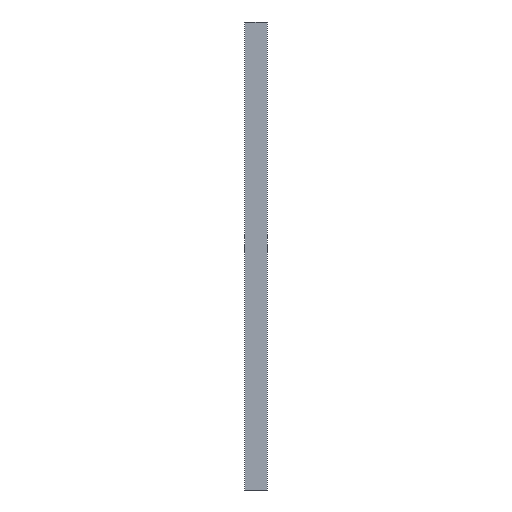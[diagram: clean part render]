
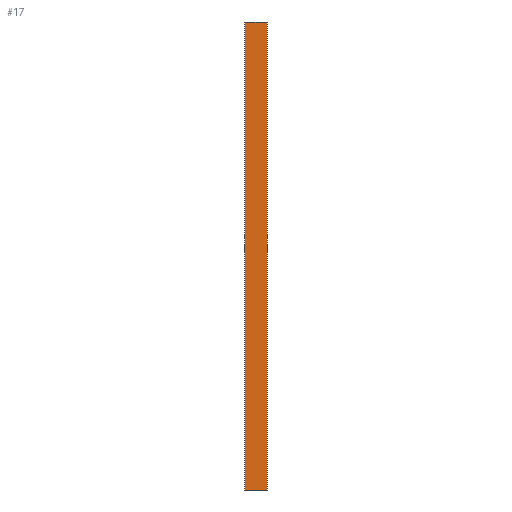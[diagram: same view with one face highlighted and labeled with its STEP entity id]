
A CAD part, front view. The second image highlights one B-rep face of the part: STEP entity #17.
In plain terms, the highlighted planar face has unit normal (0, -1, 0).
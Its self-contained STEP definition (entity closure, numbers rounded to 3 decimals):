
#17 = ADVANCED_FACE('',(#18),#32,.F.);
#18 = FACE_BOUND('',#19,.F.);
#19 = EDGE_LOOP('',(#20,#55,#83,#111));
#20 = ORIENTED_EDGE('',*,*,#21,.T.);
#21 = EDGE_CURVE('',#22,#24,#26,.T.);
#22 = VERTEX_POINT('',#23);
#23 = CARTESIAN_POINT('',(1745.,1745.,25.));
#24 = VERTEX_POINT('',#25);
#25 = CARTESIAN_POINT('',(1745.,1745.,3300.));
#26 = SURFACE_CURVE('',#27,(#31,#43),.PCURVE_S1.);
#27 = LINE('',#28,#29);
#28 = CARTESIAN_POINT('',(1745.,1745.,25.));
#29 = VECTOR('',#30,1.);
#30 = DIRECTION('',(0.,0.,1.));
#31 = PCURVE('',#32,#37);
#32 = PLANE('',#33);
#33 = AXIS2_PLACEMENT_3D('',#34,#35,#36);
#34 = CARTESIAN_POINT('',(1745.,1745.,25.));
#35 = DIRECTION('',(0.,1.,0.));
#36 = DIRECTION('',(1.,0.,0.));
#37 = DEFINITIONAL_REPRESENTATION('',(#38),#42);
#38 = LINE('',#39,#40);
#39 = CARTESIAN_POINT('',(0.,0.));
#40 = VECTOR('',#41,1.);
#41 = DIRECTION('',(0.,-1.));
#42 = ( GEOMETRIC_REPRESENTATION_CONTEXT(2) 
PARAMETRIC_REPRESENTATION_CONTEXT() REPRESENTATION_CONTEXT('2D SPACE',''
  ) );
#43 = PCURVE('',#44,#49);
#44 = PLANE('',#45);
#45 = AXIS2_PLACEMENT_3D('',#46,#47,#48);
#46 = CARTESIAN_POINT('',(1745.,1756.6,25.));
#47 = DIRECTION('',(1.,0.,-0.));
#48 = DIRECTION('',(0.,-1.,0.));
#49 = DEFINITIONAL_REPRESENTATION('',(#50),#54);
#50 = LINE('',#51,#52);
#51 = CARTESIAN_POINT('',(11.6,0.));
#52 = VECTOR('',#53,1.);
#53 = DIRECTION('',(0.,-1.));
#54 = ( GEOMETRIC_REPRESENTATION_CONTEXT(2) 
PARAMETRIC_REPRESENTATION_CONTEXT() REPRESENTATION_CONTEXT('2D SPACE',''
  ) );
#55 = ORIENTED_EDGE('',*,*,#56,.T.);
#56 = EDGE_CURVE('',#24,#57,#59,.T.);
#57 = VERTEX_POINT('',#58);
#58 = CARTESIAN_POINT('',(1899.,1745.,3300.));
#59 = SURFACE_CURVE('',#60,(#64,#71),.PCURVE_S1.);
#60 = LINE('',#61,#62);
#61 = CARTESIAN_POINT('',(1745.,1745.,3300.));
#62 = VECTOR('',#63,1.);
#63 = DIRECTION('',(1.,0.,0.));
#64 = PCURVE('',#32,#65);
#65 = DEFINITIONAL_REPRESENTATION('',(#66),#70);
#66 = LINE('',#67,#68);
#67 = CARTESIAN_POINT('',(0.,-3275.));
#68 = VECTOR('',#69,1.);
#69 = DIRECTION('',(1.,0.));
#70 = ( GEOMETRIC_REPRESENTATION_CONTEXT(2) 
PARAMETRIC_REPRESENTATION_CONTEXT() REPRESENTATION_CONTEXT('2D SPACE',''
  ) );
#71 = PCURVE('',#72,#77);
#72 = PLANE('',#73);
#73 = AXIS2_PLACEMENT_3D('',#74,#75,#76);
#74 = CARTESIAN_POINT('',(1822.,1826.,3300.));
#75 = DIRECTION('',(0.,0.,1.));
#76 = DIRECTION('',(1.,0.,-0.));
#77 = DEFINITIONAL_REPRESENTATION('',(#78),#82);
#78 = LINE('',#79,#80);
#79 = CARTESIAN_POINT('',(-77.,-81.));
#80 = VECTOR('',#81,1.);
#81 = DIRECTION('',(1.,0.));
#82 = ( GEOMETRIC_REPRESENTATION_CONTEXT(2) 
PARAMETRIC_REPRESENTATION_CONTEXT() REPRESENTATION_CONTEXT('2D SPACE',''
  ) );
#83 = ORIENTED_EDGE('',*,*,#84,.F.);
#84 = EDGE_CURVE('',#85,#57,#87,.T.);
#85 = VERTEX_POINT('',#86);
#86 = CARTESIAN_POINT('',(1899.,1745.,25.));
#87 = SURFACE_CURVE('',#88,(#92,#99),.PCURVE_S1.);
#88 = LINE('',#89,#90);
#89 = CARTESIAN_POINT('',(1899.,1745.,25.));
#90 = VECTOR('',#91,1.);
#91 = DIRECTION('',(0.,0.,1.));
#92 = PCURVE('',#32,#93);
#93 = DEFINITIONAL_REPRESENTATION('',(#94),#98);
#94 = LINE('',#95,#96);
#95 = CARTESIAN_POINT('',(154.,0.));
#96 = VECTOR('',#97,1.);
#97 = DIRECTION('',(0.,-1.));
#98 = ( GEOMETRIC_REPRESENTATION_CONTEXT(2) 
PARAMETRIC_REPRESENTATION_CONTEXT() REPRESENTATION_CONTEXT('2D SPACE',''
  ) );
#99 = PCURVE('',#100,#105);
#100 = PLANE('',#101);
#101 = AXIS2_PLACEMENT_3D('',#102,#103,#104);
#102 = CARTESIAN_POINT('',(1899.,1745.,25.));
#103 = DIRECTION('',(-1.,0.,0.));
#104 = DIRECTION('',(0.,1.,0.));
#105 = DEFINITIONAL_REPRESENTATION('',(#106),#110);
#106 = LINE('',#107,#108);
#107 = CARTESIAN_POINT('',(0.,0.));
#108 = VECTOR('',#109,1.);
#109 = DIRECTION('',(0.,-1.));
#110 = ( GEOMETRIC_REPRESENTATION_CONTEXT(2) 
PARAMETRIC_REPRESENTATION_CONTEXT() REPRESENTATION_CONTEXT('2D SPACE',''
  ) );
#111 = ORIENTED_EDGE('',*,*,#112,.F.);
#112 = EDGE_CURVE('',#22,#85,#113,.T.);
#113 = SURFACE_CURVE('',#114,(#118,#125),.PCURVE_S1.);
#114 = LINE('',#115,#116);
#115 = CARTESIAN_POINT('',(1745.,1745.,25.));
#116 = VECTOR('',#117,1.);
#117 = DIRECTION('',(1.,0.,0.));
#118 = PCURVE('',#32,#119);
#119 = DEFINITIONAL_REPRESENTATION('',(#120),#124);
#120 = LINE('',#121,#122);
#121 = CARTESIAN_POINT('',(0.,0.));
#122 = VECTOR('',#123,1.);
#123 = DIRECTION('',(1.,0.));
#124 = ( GEOMETRIC_REPRESENTATION_CONTEXT(2) 
PARAMETRIC_REPRESENTATION_CONTEXT() REPRESENTATION_CONTEXT('2D SPACE',''
  ) );
#125 = PCURVE('',#126,#131);
#126 = PLANE('',#127);
#127 = AXIS2_PLACEMENT_3D('',#128,#129,#130);
#128 = CARTESIAN_POINT('',(1822.,1826.,25.));
#129 = DIRECTION('',(0.,0.,1.));
#130 = DIRECTION('',(1.,0.,-0.));
#131 = DEFINITIONAL_REPRESENTATION('',(#132),#136);
#132 = LINE('',#133,#134);
#133 = CARTESIAN_POINT('',(-77.,-81.));
#134 = VECTOR('',#135,1.);
#135 = DIRECTION('',(1.,0.));
#136 = ( GEOMETRIC_REPRESENTATION_CONTEXT(2) 
PARAMETRIC_REPRESENTATION_CONTEXT() REPRESENTATION_CONTEXT('2D SPACE',''
  ) );
